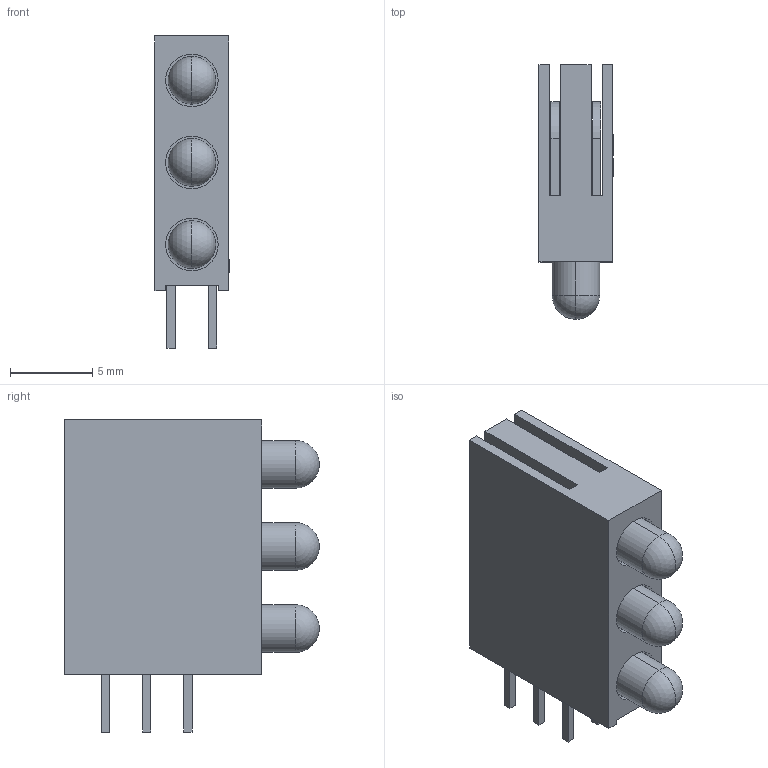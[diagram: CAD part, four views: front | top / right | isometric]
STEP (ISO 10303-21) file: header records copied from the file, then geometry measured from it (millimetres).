
FILE_DESCRIPTION(/* description */ (''),/* implementation_level */ '2;1');
FILE_NAME(/* name */ 'SOLID2.stp',/* time_stamp */ '2025-05-13T15:26:28+07:00',/* author */ (''),/* organization */ (''),/* preprocessor_version */ 'ST-DEVELOPER v16.7',/* originating_system */ 'SIEMENS PLM Software NX 12.0',/* authorisation */ '');
FILE_SCHEMA (('AUTOMOTIVE_DESIGN { 1 0 10303 214 3 1 1 1 }'));
Length unit declared in the file: millimetre
Products named in the file (1): SOLID
Bounding box: 4.51 x 15.5 x 19 mm (x, y, z)
Volume: 733.3 mm3; surface area: 1357.8 mm2
Topology: 1 solids, 1 shells, 311 faces, 843 edges, 559 vertices
Faces by surface type: plane 183, bspline 98, cylinder 24, sphere 6
Entity records: 12408 total; most frequent: CARTESIAN_POINT 3002, ORIENTED_EDGE 1674, DIRECTION 1129, EDGE_CURVE 837, LINE 581, VECTOR 581, VERTEX_POINT 559, EDGE_LOOP 342
